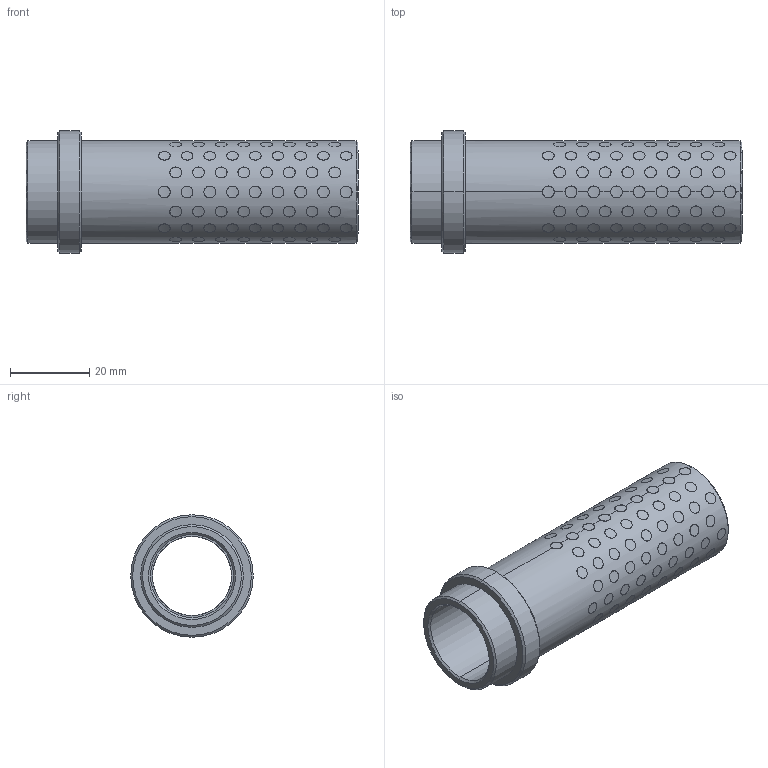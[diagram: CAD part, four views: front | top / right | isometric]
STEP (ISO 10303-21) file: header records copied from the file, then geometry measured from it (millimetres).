
FILE_DESCRIPTION((''),'2;1');
FILE_NAME('G31220076','2017-12-30T',('MANU'),(''),'PRO/ENGINEER BY PARAMETRIC TECHNOLOGY CORPORATION, 2012130','PRO/ENGINEER BY PARAMETRIC TECHNOLOGY CORPORATION, 2012130','');
FILE_SCHEMA(('CONFIG_CONTROL_DESIGN'));
Products named in the file (1): G31220076
Bounding box: 84 x 31 x 31 mm (x, y, z)
Volume: 18397 mm3; surface area: 20664.2 mm2
Topology: 137 solids, 137 shells, 843 faces, 1794 edges, 1192 vertices
Faces by surface type: cylinder 826, cone 12, plane 5
Entity records: 39514 total; most frequent: CARTESIAN_POINT 23145, ORIENTED_EDGE 3588, DIRECTION 2352, EDGE_CURVE 1794, VERTEX_POINT 1192, B_SPLINE_CURVE_WITH_KNOTS 1160, EDGE_LOOP 1084, AXIS2_PLACEMENT_3D 875
